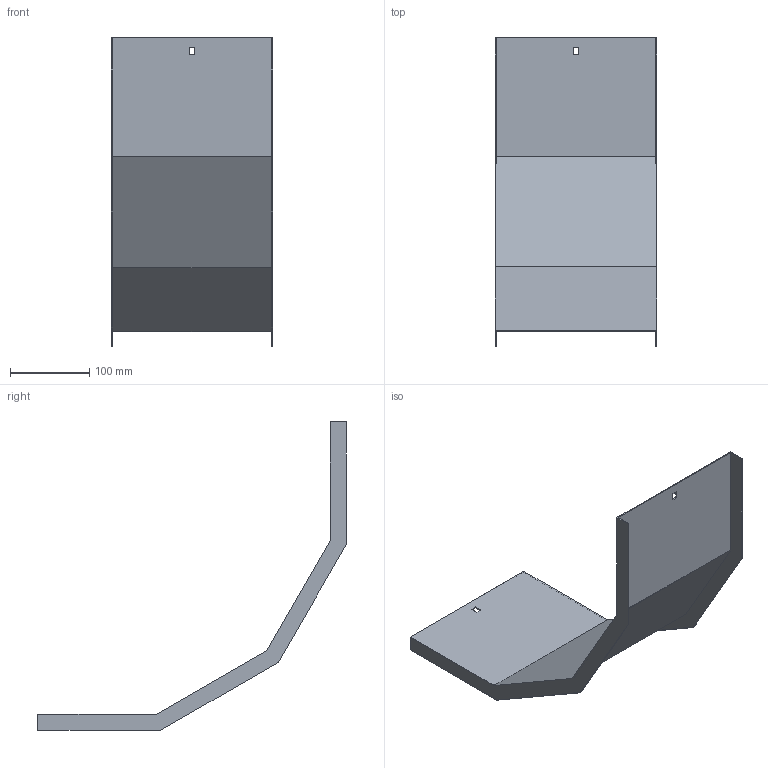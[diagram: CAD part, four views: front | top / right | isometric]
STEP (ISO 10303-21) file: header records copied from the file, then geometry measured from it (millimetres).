
FILE_DESCRIPTION (( 'STEP AP214' ), '1' );
FILE_NAME ('A2X30N3R200X.step', '2025-04-02T08:34:02', ( '' ), ( '' ), 'SwSTEP 2.0', 'SolidWorks 2023', '' );
FILE_SCHEMA (( 'AUTOMOTIVE_DESIGN' ));
Length unit declared in the file: millimetre
Products named in the file (1): A2X30N3R200X
Bounding box: 203 x 388.95 x 388.95 mm (x, y, z)
Volume: 224494.8 mm3; surface area: 302093.5 mm2
Topology: 1 solids, 1 shells, 30 faces, 84 edges, 56 vertices
Faces by surface type: plane 30
Entity records: 979 total; most frequent: CARTESIAN_POINT 171, ORIENTED_EDGE 168, DIRECTION 146, VECTOR 84, EDGE_CURVE 84, LINE 84, VERTEX_POINT 56, EDGE_LOOP 34
